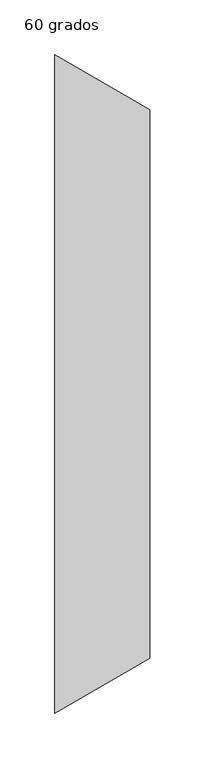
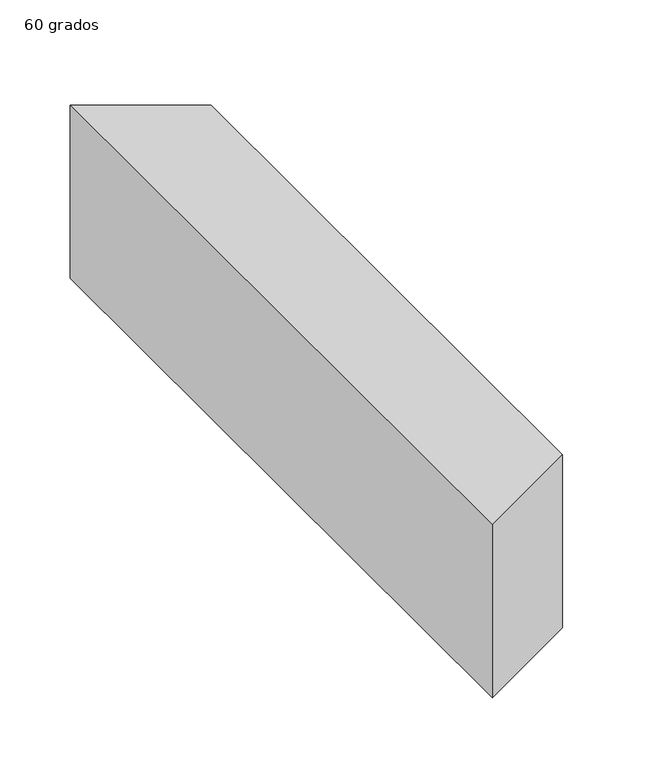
"""IFC4 building model written with IfcOpenShell, lengths in millimetres: duct fitting geometry, M_Transición rectangular - Ángulo : 60 grados."""

from ifc_helpers import new_model, si_unit, frame, origin, place, context, project, spatial, polyline, outline, extrude, source, transform, mapped, element, save


def duct_fitting_60_grados_6addbc64(model_context):
    return source(origin(), model_context, "Body", "SweptSolid", [
        extrude(outline(polyline([(0.0, -300.0), (0.0, 300.0), (86.6025404, 250.0), (86.6025404, -250.0), (0.0, -300.0)])), frame((0.0, 0.0, -75.0), z_axis=(0.0, 0.0, 1.0), x_axis=(1.0, 0.0, 0.0)), (0.0, 0.0, 1.0), 150.0),
    ])


if __name__ == "__main__":
    model = new_model("IFC4")
    model_context = context("Model", 3, world=origin())
    ifc_project = project(units=[si_unit("LENGTHUNIT", "METRE", prefix="MILLI")], contexts=[model_context])
    site = spatial("IfcSite", under=ifc_project)
    building = spatial("IfcBuilding", under=site)
    placement = place(None, origin())
    duct_fitting_60_grados_shape = duct_fitting_60_grados_6addbc64(model_context)
    element("IfcDuctFitting", 1, ObjectType="M_Transición rectangular - Ángulo : 60 grados", at=placement, inside=building, context=model_context, shape_type="MappedRepresentation", body=[
        mapped(duct_fitting_60_grados_shape, transform((0.0, 0.0, 0.0), x_axis=(1.0, 0.0, 0.0), y_axis=(0.0, 1.0, 0.0), z_axis=(0.0, 0.0, 1.0))),
    ])
    save(model, "model.ifc")
